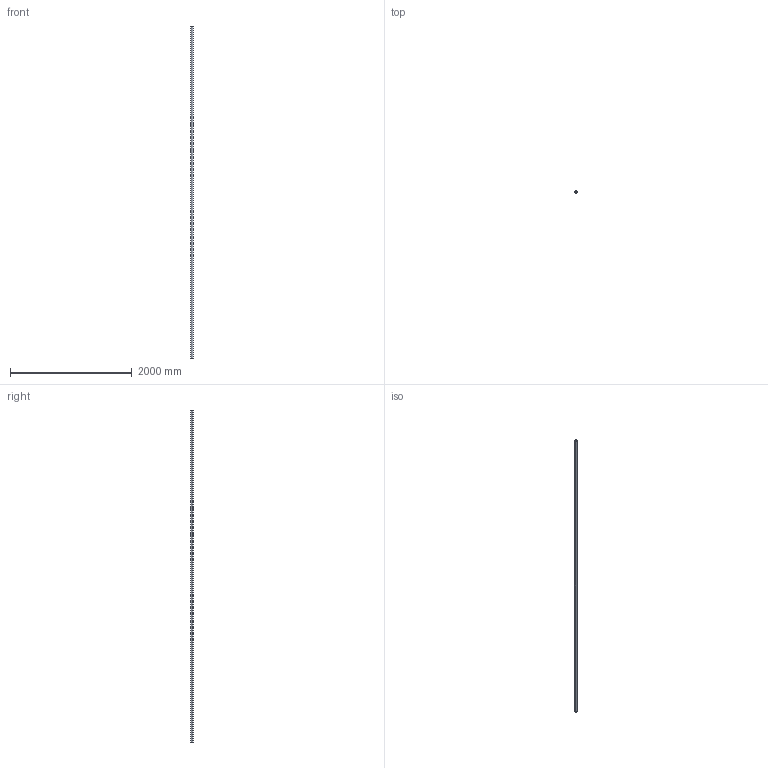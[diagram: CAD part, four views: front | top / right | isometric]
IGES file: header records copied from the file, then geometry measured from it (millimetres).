
Start section: SolidWorks IGES file using analytic representation for surfaces
Global section: file name: C:\Users\IanO\Desktop\L1771_v2\L1771.40_v2\L1771.40_v2_20230705_IGES\L1771.40-5450.igs; native system: SolidWorks 2019; preprocessor: SolidWorks 2019; author: IanO; date: 230705.163141; units: millimetre
Bounding box: 40 x 40 x 5450 mm (x, y, z)
Surface area: 1165556 mm2 (no closed solid volume)
Topology: 0 solids, 0 shells, 6 faces, 272 edges, 272 vertices
Faces by surface type: revolution 4, bspline 2
